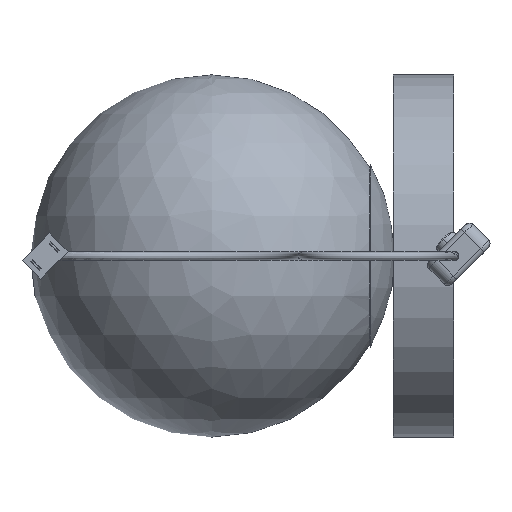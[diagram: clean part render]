
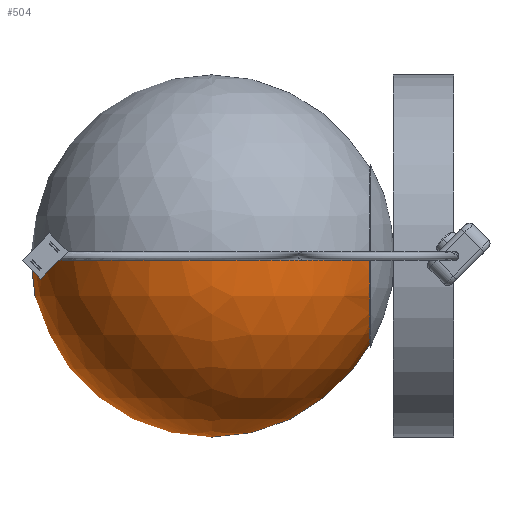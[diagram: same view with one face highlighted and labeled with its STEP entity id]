
A CAD part, left-side view. The second image highlights one B-rep face of the part: STEP entity #504.
In plain terms, the highlighted spherical face has radius 75 mm.
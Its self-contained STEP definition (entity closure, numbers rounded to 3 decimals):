
#281 = FACE_OUTER_BOUND ( 'NONE', #10157, .T. ) ;
#484 = CIRCLE ( 'NONE', #3391, 75. ) ;
#504 = ADVANCED_FACE ( 'NONE', ( #281 ), #5465, .T. ) ;
#926 = DIRECTION ( 'NONE',  ( 0., -1., 0. ) ) ;
#1859 = DIRECTION ( 'NONE',  ( 0., 0., -1. ) ) ;
#2021 = CARTESIAN_POINT ( 'NONE',  ( 0., 175.2, 0. ) ) ;
#2043 = ORIENTED_EDGE ( 'NONE', *, *, #6576, .F. ) ;
#2894 = CARTESIAN_POINT ( 'NONE',  ( 0., 100.2, 0. ) ) ;
#3266 = DIRECTION ( 'NONE',  ( -1., 0., 0. ) ) ;
#3391 = AXIS2_PLACEMENT_3D ( 'NONE', #6473, #13096, #10757 ) ;
#3594 = AXIS2_PLACEMENT_3D ( 'NONE', #2894, #8165, #10372 ) ;
#3835 = CARTESIAN_POINT ( 'NONE',  ( -36.51, 34.687, 0. ) ) ;
#4944 = AXIS2_PLACEMENT_3D ( 'NONE', #7307, #926, #1859 ) ;
#5465 = SPHERICAL_SURFACE ( 'NONE', #8742, 75. ) ;
#6108 = EDGE_CURVE ( 'NONE', #12641, #7548, #11076, .T. ) ;
#6473 = CARTESIAN_POINT ( 'NONE',  ( 0., 100.2, 0. ) ) ;
#6576 = EDGE_CURVE ( 'NONE', #6879, #12641, #8814, .T. ) ;
#6879 = VERTEX_POINT ( 'NONE', #2021 ) ;
#7307 = CARTESIAN_POINT ( 'NONE',  ( 0., 34.687, 0. ) ) ;
#7548 = VERTEX_POINT ( 'NONE', #12640 ) ;
#8165 = DIRECTION ( 'NONE',  ( 0., 0., 1. ) ) ;
#8295 = ORIENTED_EDGE ( 'NONE', *, *, #6108, .F. ) ;
#8667 = CARTESIAN_POINT ( 'NONE',  ( 0., 100.2, 0. ) ) ;
#8742 = AXIS2_PLACEMENT_3D ( 'NONE', #8667, #13216, #3266 ) ;
#8814 = CIRCLE ( 'NONE', #3594, 75. ) ;
#10157 = EDGE_LOOP ( 'NONE', ( #2043, #10836, #8295 ) ) ;
#10372 = DIRECTION ( 'NONE',  ( 1., 0., 0. ) ) ;
#10497 = EDGE_CURVE ( 'NONE', #6879, #7548, #484, .T. ) ;
#10757 = DIRECTION ( 'NONE',  ( -1., 0., 0. ) ) ;
#10836 = ORIENTED_EDGE ( 'NONE', *, *, #10497, .T. ) ;
#11076 = CIRCLE ( 'NONE', #4944, 36.51 ) ;
#12640 = CARTESIAN_POINT ( 'NONE',  ( 36.51, 34.687, 0. ) ) ;
#12641 = VERTEX_POINT ( 'NONE', #3835 ) ;
#13096 = DIRECTION ( 'NONE',  ( 0., 0., -1. ) ) ;
#13216 = DIRECTION ( 'NONE',  ( 0., 0., -1. ) ) ;
